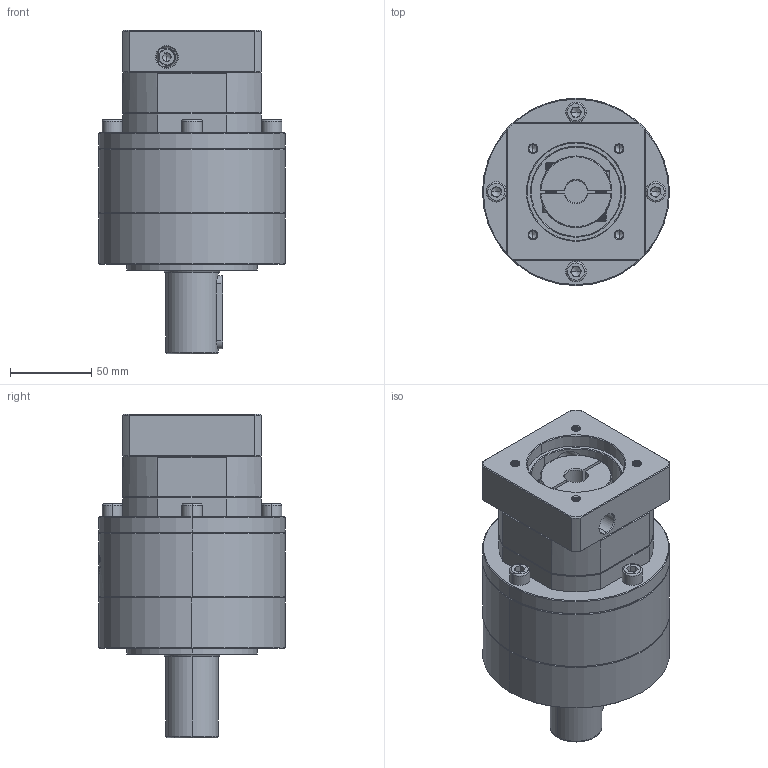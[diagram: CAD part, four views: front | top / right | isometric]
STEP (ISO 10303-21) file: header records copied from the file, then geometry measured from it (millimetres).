
FILE_DESCRIPTION (( 'STEP AP214' ), '1' );
FILE_NAME ('ZE120A-D32-L2-P2-14-60-75-M6.step', '2023-08-28T10:49:22', ( '' ), ( '' ), 'SwSTEP 2.0', 'SolidWorks 2016', '' );
FILE_SCHEMA (( 'AUTOMOTIVE_DESIGN' ));
Length unit declared in the file: millimetre
Products named in the file (1): ZE120A-D32-L2-P2-14-60-75-M6
Bounding box: 115 x 115 x 199 mm (x, y, z)
Volume: 1243627.3 mm3; surface area: 124272.5 mm2
Topology: 5 solids, 6 shells, 2304 faces, 6142 edges, 3936 vertices
Faces by surface type: plane 1039, cylinder 504, bspline 431, cone 315, torus 15
Entity records: 132998 total; most frequent: CARTESIAN_POINT 56568, ORIENTED_EDGE 12208, DIRECTION 8588, EDGE_CURVE 6104, VERTEX_POINT 3936, VECTOR 3152, LINE 3152, AXIS2_PLACEMENT_3D 2718
